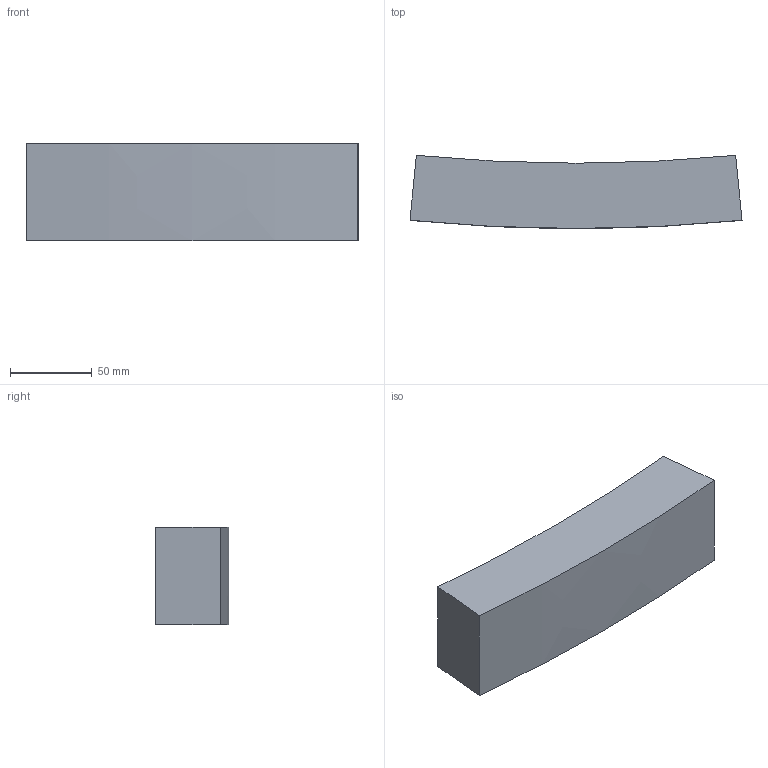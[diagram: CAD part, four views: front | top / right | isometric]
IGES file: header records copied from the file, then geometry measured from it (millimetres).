
Start section:  PTC IGES file: d160-1600_fixbloc_d1000_pk-01.igs
Global section: file name: d160-1600_fixbloc_d1000_pk-01.igs; native system: Creo Parametric by PTC Inc.; preprocessor: 2019030; author: demmerls; organization: Unknown; date: 20200928.100510; units: millimetre
Bounding box: 203.45 x 44.8 x 60 mm (x, y, z)
Surface area: 44771.8 mm2 (no closed solid volume)
Topology: 0 solids, 0 shells, 6 faces, 24 edges, 24 vertices
Faces by surface type: bspline 6
